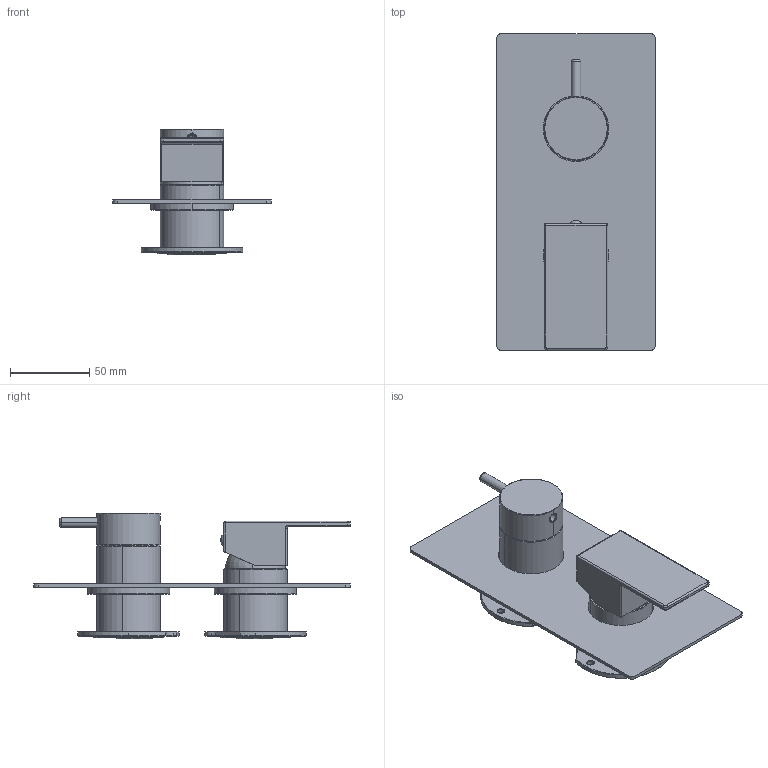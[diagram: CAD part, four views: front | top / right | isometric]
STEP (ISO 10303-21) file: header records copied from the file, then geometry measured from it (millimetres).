
FILE_DESCRIPTION (( 'STEP AP203' ), '1' );
FILE_NAME ('EMF2.STEP', '2024-01-31T08:12:42', ( '' ), ( '' ), 'SwSTEP 2.0', 'SolidWorks 2023', '' );
FILE_SCHEMA (( 'CONFIG_CONTROL_DESIGN' ));
Length unit declared in the file: millimetre
Products named in the file (24): C24.1879.00.0; C11.14.0007; C11.14.0003; C12.00.0057; C10.00.0015; AS1078; AS743_00; C18.14.0006; EMF2; C24.1837.00.0; C28.1829.00.0; C31.00.0006.01; C23.1878.01; C24.0075.00.0; C25.2056.00.0; C47.00.0015; C25.2695.00; AS756_00; C24.1828.00.0; C25.1173.00.0; AS747_00; C24.1833.00.0; C24.1830.00.0; C10.00.0011
Assembly tree (24 placements, depth 4):
  EMF2
    AS1078
      C25.2695.00
      C25.2056.00.0  x2
    AS743_00
      C24.0075.00.0
      C10.00.0011
      C24.1833.00.0
      C24.1828.00.0
      C28.1829.00.0
      AS756_00
        C24.1879.00.0
        C25.1173.00.0
        C23.1878.01
        C11.14.0007
    AS747_00
      C47.00.0015
      C10.00.0015
      C24.1830.00.0
      C12.00.0057
      C24.1837.00.0
      C31.00.0006.01
    C18.14.0006
    C11.14.0003
Bounding box: 100 x 200 x 79.3 mm (x, y, z)
Volume: 189053.8 mm3; surface area: 135401.5 mm2
Topology: 23 solids, 23 shells, 836 faces, 1929 edges, 1179 vertices
Faces by surface type: cylinder 320, plane 247, cone 171, torus 68, bspline 28, sphere 2
Entity records: 27597 total; most frequent: CARTESIAN_POINT 5898, DIRECTION 4353, ORIENTED_EDGE 3766, EDGE_CURVE 1883, AXIS2_PLACEMENT_3D 1770, VERTEX_POINT 1161, EDGE_LOOP 946, CIRCLE 946
